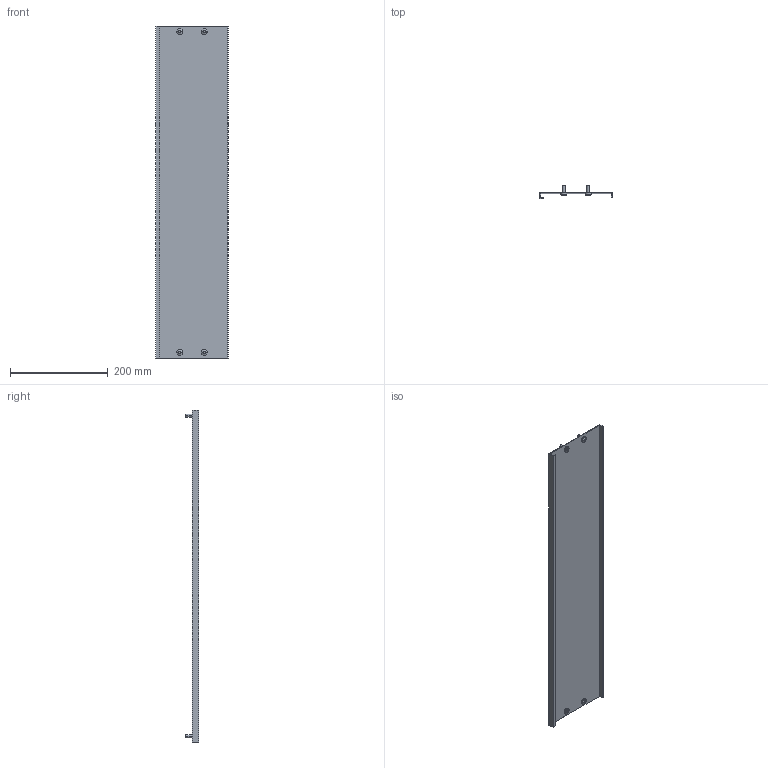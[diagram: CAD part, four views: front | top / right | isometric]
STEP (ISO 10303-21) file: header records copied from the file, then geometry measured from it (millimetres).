
FILE_DESCRIPTION (( 'STEP AP214' ), '1' );
FILE_NAME ('FO-00-PVS-015-080 Ïëàñòðîí ãëóõîé âíóòðåííèé 150õ800.STEP', '2025-09-29T21:14:33', ( '' ), ( '' ), 'SwSTEP 2.0', 'SolidWorks 2023', '' );
FILE_SCHEMA (( 'AUTOMOTIVE_DESIGN' ));
Length unit declared in the file: millimetre
Products named in the file (3): FO-00-PVS-015-080 Пластрон глухой внутренний 150х800; Винт M6x16 015-080 IEK
Assembly tree (3 placements, depth 2):
  FO-00-PVS-015-080 Пластрон глухой внутренний 150х800
    FO-00-PVS-015-080 Пластрон глухой внутренний 150х800
    Винт M6x16 015-080 IEK  x2
Bounding box: 148 x 27 x 679 mm (x, y, z)
Volume: 180063.5 mm3; surface area: 241233.5 mm2
Topology: 5 solids, 5 shells, 150 faces, 392 edges, 256 vertices
Faces by surface type: cylinder 88, plane 42, cone 12, bspline 8
Entity records: 3233 total; most frequent: CARTESIAN_POINT 724, ORIENTED_EDGE 512, DIRECTION 500, EDGE_CURVE 256, AXIS2_PLACEMENT_3D 180, VERTEX_POINT 168, LINE 140, VECTOR 140
